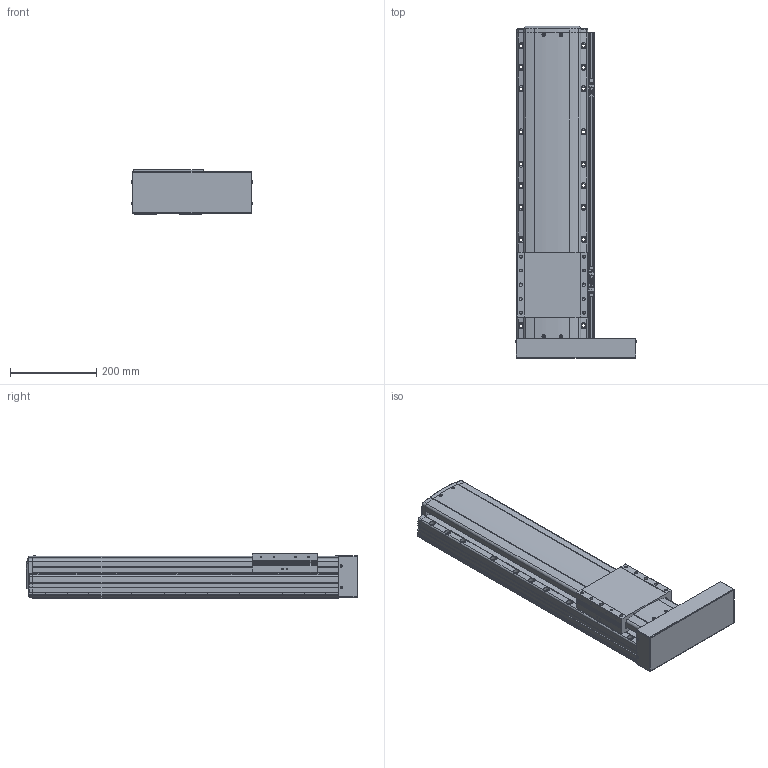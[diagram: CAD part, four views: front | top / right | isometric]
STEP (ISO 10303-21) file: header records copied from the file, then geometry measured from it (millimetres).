
FILE_DESCRIPTION(('STEP AP214'),'1');
FILE_NAME('Z:/Web/3D/PSA165/STP/PSA165-450 (3D)/PSA165ㅁㅁ-450PR+3SR.stp','2014-06-23T11:24:25',(' '),(' '),'Spatial InterOp 3D',' ',' ');
FILE_SCHEMA(('automotive_design'));
Length unit declared in the file: millimetre
Products named in the file (41): 스크루 : Round - M4.0 x 12.0; RRCV-PA160; BASE; 스크루 : Round - M4.0 x 10.0; RN15; Screw 20; SLIDE; FRCV; MTPL; 스크루 : Round - M3.0 x 6.0; M3.0 x 6.0; SRL-16x17-360L; SGD-SAN150; EE-SX674; SBK-SX674-352; BHCS M4.0 x 10.0
Bounding box: 281.93 x 770.8 x 104 mm (x, y, z)
Volume: 11375172 mm3; surface area: 867162.5 mm2
Topology: 41 solids, 41 shells, 2492 faces, 6669 edges, 4285 vertices
Faces by surface type: plane 1443, cylinder 735, cone 209, sphere 64, bspline 25, torus 16
Entity records: 100993 total; most frequent: CARTESIAN_POINT 17393, DIRECTION 13287, ORIENTED_EDGE 13062, EDGE_CURVE 6531, AXIS2_PLACEMENT_3D 4433, LINE 4421, VECTOR 4421, VERTEX_POINT 4285
